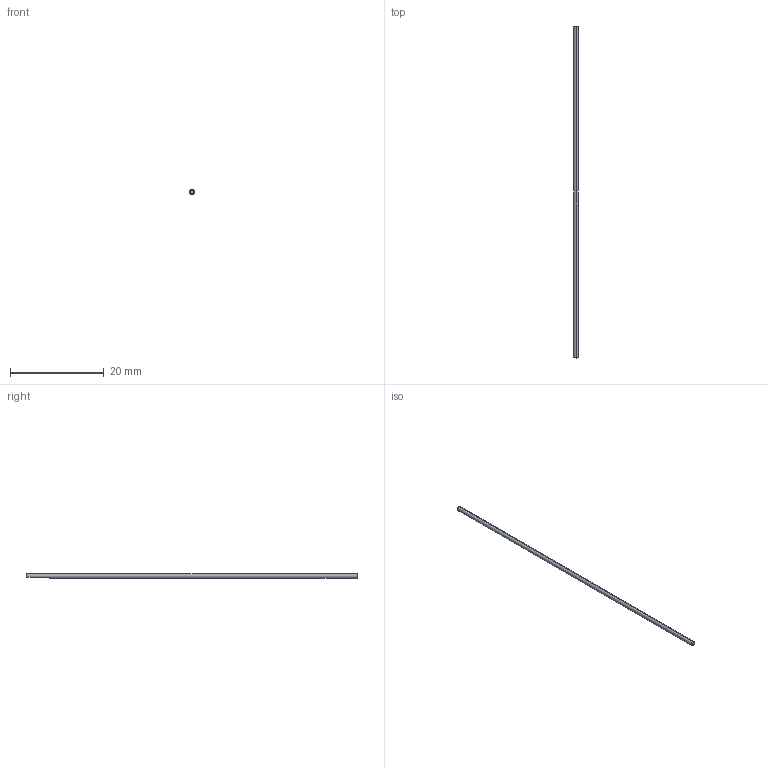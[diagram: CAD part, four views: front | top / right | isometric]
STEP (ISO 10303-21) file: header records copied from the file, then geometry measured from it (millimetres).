
FILE_DESCRIPTION (( 'STEP AP214' ), '1' );
FILE_NAME ('TRL-0025-A.STEP', '2021-06-29T18:24:35', ( '' ), ( '' ), 'SwSTEP 2.0', 'SolidWorks 2016', '' );
FILE_SCHEMA (( 'AUTOMOTIVE_DESIGN' ));
Length unit declared in the file: millimetre
Products named in the file (1): TRL-0025-A
Bounding box: 1 x 70.7 x 1 mm (x, y, z)
Volume: 54.7 mm3; surface area: 222 mm2
Topology: 1 solids, 1 shells, 9 faces, 19 edges, 12 vertices
Faces by surface type: plane 4, cone 3, cylinder 2
Entity records: 282 total; most frequent: CARTESIAN_POINT 47, DIRECTION 46, ORIENTED_EDGE 38, EDGE_CURVE 19, AXIS2_PLACEMENT_3D 19, VERTEX_POINT 12, EDGE_LOOP 9, ADVANCED_FACE 9
